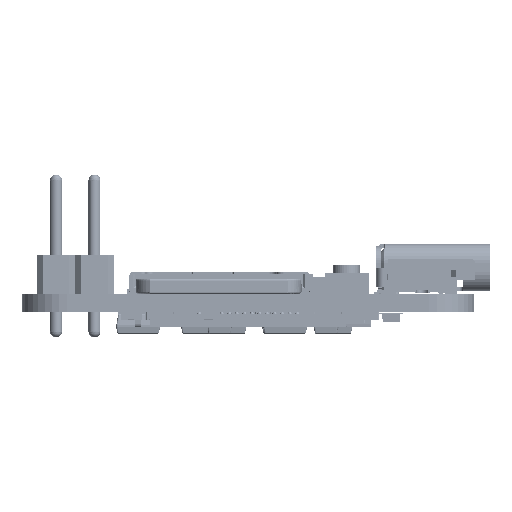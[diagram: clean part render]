
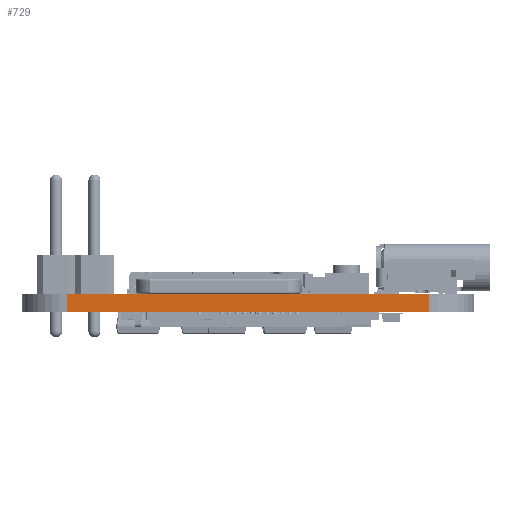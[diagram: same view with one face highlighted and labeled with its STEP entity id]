
A CAD part, left-side view. The second image highlights one B-rep face of the part: STEP entity #729.
In plain terms, the highlighted planar face has unit normal (-1, 0, 0).
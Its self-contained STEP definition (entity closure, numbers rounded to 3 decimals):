
#729 = ADVANCED_FACE('',(#730),#764,.T.);
#730 = FACE_BOUND('',#731,.T.);
#731 = EDGE_LOOP('',(#732,#742,#750,#758));
#732 = ORIENTED_EDGE('',*,*,#733,.T.);
#733 = EDGE_CURVE('',#734,#736,#738,.T.);
#734 = VERTEX_POINT('',#735);
#735 = CARTESIAN_POINT('',(0.,3.,0.));
#736 = VERTEX_POINT('',#737);
#737 = CARTESIAN_POINT('',(0.,3.,1.206));
#738 = LINE('',#739,#740);
#739 = CARTESIAN_POINT('',(0.,3.,0.));
#740 = VECTOR('',#741,1.);
#741 = DIRECTION('',(0.,0.,1.));
#742 = ORIENTED_EDGE('',*,*,#743,.T.);
#743 = EDGE_CURVE('',#736,#744,#746,.T.);
#744 = VERTEX_POINT('',#745);
#745 = CARTESIAN_POINT('',(0.,27.,1.206));
#746 = LINE('',#747,#748);
#747 = CARTESIAN_POINT('',(0.,3.,1.206));
#748 = VECTOR('',#749,1.);
#749 = DIRECTION('',(0.,1.,0.));
#750 = ORIENTED_EDGE('',*,*,#751,.F.);
#751 = EDGE_CURVE('',#752,#744,#754,.T.);
#752 = VERTEX_POINT('',#753);
#753 = CARTESIAN_POINT('',(0.,27.,0.));
#754 = LINE('',#755,#756);
#755 = CARTESIAN_POINT('',(0.,27.,0.));
#756 = VECTOR('',#757,1.);
#757 = DIRECTION('',(0.,0.,1.));
#758 = ORIENTED_EDGE('',*,*,#759,.F.);
#759 = EDGE_CURVE('',#734,#752,#760,.T.);
#760 = LINE('',#761,#762);
#761 = CARTESIAN_POINT('',(0.,3.,0.));
#762 = VECTOR('',#763,1.);
#763 = DIRECTION('',(0.,1.,0.));
#764 = PLANE('',#765);
#765 = AXIS2_PLACEMENT_3D('',#766,#767,#768);
#766 = CARTESIAN_POINT('',(0.,3.,0.));
#767 = DIRECTION('',(-1.,0.,0.));
#768 = DIRECTION('',(0.,1.,0.));
